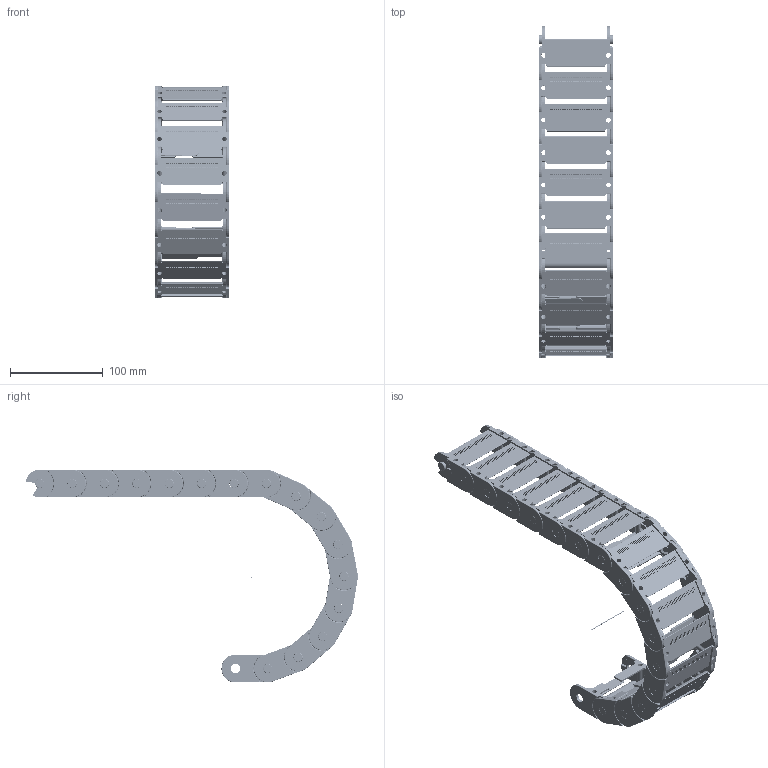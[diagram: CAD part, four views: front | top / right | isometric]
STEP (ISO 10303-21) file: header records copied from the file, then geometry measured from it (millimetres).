
FILE_DESCRIPTION((''),'2;1');
FILE_NAME('C:\Uebbing\PARAMETERKETTEN\KOLIBRI\Kol_30_080_4\Kol 30_080_4_R100.stp','2012-03-05T11:32:18',('Uebbing'),(''),'Autodesk Inventor 10','Autodesk Inventor 10','');
FILE_SCHEMA(('AUTOMOTIVE_DESIGN { 1 0 10303 214 1 1 1 1 }'));
Length unit declared in the file: millimetre
Products named in the file (3): KOLIBRI 30_080_4_PARAMETRISCH; Achse; Kol 30_080_4_Lasche
Assembly tree (17 placements, depth 2):
  KOLIBRI 30_080_4_PARAMETRISCH
    Achse
    Kol 30_080_4_Lasche  x16
Bounding box: 80 x 358.61 x 230 mm (x, y, z)
Volume: 319961.7 mm3; surface area: 257987.5 mm2
Topology: 17 solids, 17 shells, 11715 faces, 31076 edges, 20307 vertices
Faces by surface type: plane 4898, bspline 4464, cylinder 1937, torus 384, sphere 32
Full cylindrical faces by diameter (mm): 1 x1, 1.166 x16, 2.048 x16, 5.1 x16, 10 x16, 10.1 x16
Entity records: 25386 total; most frequent: CARTESIAN_POINT 7932, ORIENTED_EDGE 3850, DIRECTION 3131, EDGE_CURVE 1925, VERTEX_POINT 1266, VECTOR 1259, LINE 1259, AXIS2_PLACEMENT_3D 936
